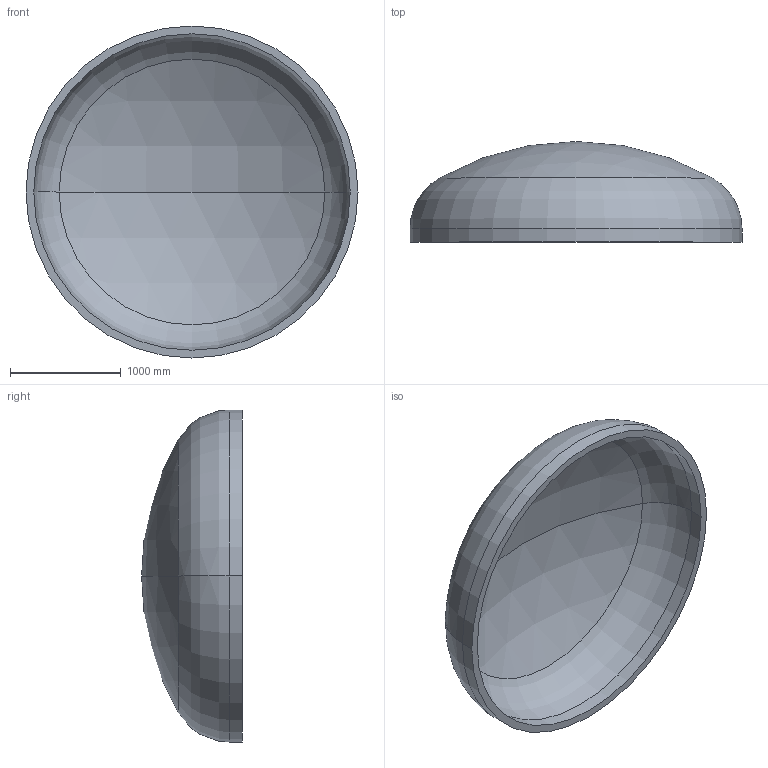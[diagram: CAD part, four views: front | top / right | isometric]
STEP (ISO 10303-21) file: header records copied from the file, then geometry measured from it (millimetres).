
FILE_DESCRIPTION (( 'STEP AP203' ), '1' );
FILE_NAME ('DIN 28013 Korbbogenform_-_Boden DIN 28013 - 3000 x 120 - I - s=70.step', '2016-07-01T17:57:55', ( '' ), ( '' ), 'SwSTEP 2.0', 'SolidWorks 2013', '' );
FILE_SCHEMA (( 'CONFIG_CONTROL_DESIGN' ));
Length unit declared in the file: millimetre
Products named in the file (1): DIN 28013 Korbbogenform_-_Boden DIN 28013 - 3000 x 120 - I - s=70
Bounding box: 3000 x 909.91 x 3000 mm (x, y, z)
Volume: 741358091.1 mm3; surface area: 21836255.8 mm2
Topology: 1 solids, 1 shells, 13 faces, 24 edges, 14 vertices
Faces by surface type: torus 4, cylinder 4, sphere 4, plane 1
Entity records: 407 total; most frequent: DIRECTION 72, CARTESIAN_POINT 52, ORIENTED_EDGE 48, AXIS2_PLACEMENT_3D 34, EDGE_CURVE 24, CIRCLE 20, VERTEX_POINT 14, EDGE_LOOP 14
